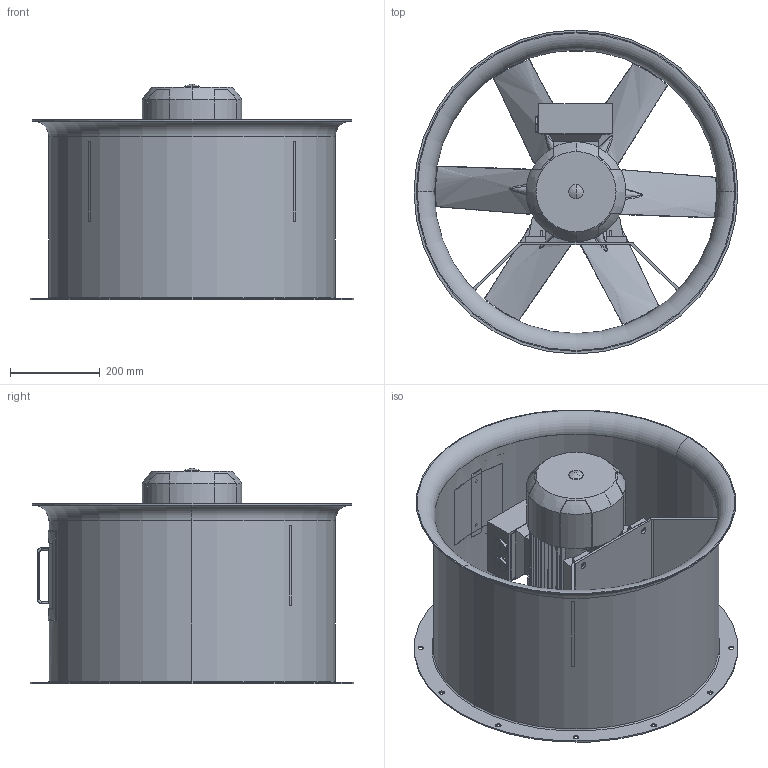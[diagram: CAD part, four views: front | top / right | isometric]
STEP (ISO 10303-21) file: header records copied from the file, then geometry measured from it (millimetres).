
FILE_DESCRIPTION (( 'STEP AP214' ), '1' );
FILE_NAME ('BRV 630_KF_L=400_kort utf..STEP', '2020-09-01T12:48:06', ( '' ), ( '' ), 'SwSTEP 2.0', 'SolidWorks 2016', '' );
FILE_SCHEMA (( 'AUTOMOTIVE_DESIGN' ));
Length unit declared in the file: millimetre
Products named in the file (23): Boss Bolt And Nuts - 624_6-6_30_PAG_4ZL_28_8_62_A-107953; M8_C1-1 Bolt And Nuts - 624_6-6_30_PAG_4ZL_28_8_62_A-107953_2; C1-1-Bolt-Y62006250000_624_6-6_30_PAG_4ZL_28_8_62_A-107953; BRV 630 Insp.luke 150x150; BB-Bolt-Y62006200008_624_6-6_30_PAG_4ZL_28_8_62_A-107953; C1-1-Nuts-Y63206000006_624_6-6_30_PAG_4ZL_28_8_62_A-107953; 24000706200 - 624_6-6_30_PAG_4ZL_28_8_62_A-107953; BRV 630_KF_L=400_mot.112_kort_standard; M8_C1-1 Bolt And Nuts - 624_6-6_30_PAG_4ZL_28_8_62_A-107953_6; 21060708106 - 624_6-6_30_PAG_4ZL_28_8_62_A-107953; BRV 630_KF_L=400_kort utf.; M8_C1-1 Bolt And Nuts - 624_6-6_30_PAG_4ZL_28_8_62_A-107953_5; 624_6-6_30_PAG_4ZL_28_8_62_A-107953; M8_C1-1 Bolt And Nuts - 624_6-6_30_PAG_4ZL_28_8_62_A-107953_3; Boss Bolt And Nuts - 624_6-6_30_PAG_4ZL_28_8_62_A-107953_5; M8_C1-1 Bolt And Nuts - 624_6-6_30_PAG_4ZL_28_8_62_A-107953; M8_C1-1 Bolt And Nuts - 624_6-6_30_PAG_4ZL_28_8_62_A-107953_4; BB-Nut-Y63206000006_624_6-6_30_PAG_4ZL_28_8_62_A-107953; 1TZ9 C 112M-4 4kW B3 IE3; 14100200049 - 624_6-6_30_PAG_4ZL_28_8_62_A-107953; Boss Bolt And Nuts - 624_6-6_30_PAG_4ZL_28_8_62_A-107953_3; Boss Bolt And Nuts - 624_6-6_30_PAG_4ZL_28_8_62_A-107953_2; Boss Bolt And Nuts - 624_6-6_30_PAG_4ZL_28_8_62_A-107953_4
Assembly tree (46 placements, depth 4):
  BRV 630_KF_L=400_kort utf.
    BRV 630_KF_L=400_mot.112_kort_standard
    BRV 630 Insp.luke 150x150
    1TZ9 C 112M-4 4kW B3 IE3
    624_6-6_30_PAG_4ZL_28_8_62_A-107953
      21060708106 - 624_6-6_30_PAG_4ZL_28_8_62_A-107953  x2
      14100200049 - 624_6-6_30_PAG_4ZL_28_8_62_A-107953  x6
      24000706200 - 624_6-6_30_PAG_4ZL_28_8_62_A-107953
      Boss Bolt And Nuts - 624_6-6_30_PAG_4ZL_28_8_62_A-107953
        BB-Bolt-Y62006200008_624_6-6_30_PAG_4ZL_28_8_62_A-107953
        BB-Nut-Y63206000006_624_6-6_30_PAG_4ZL_28_8_62_A-107953
      M8_C1-1 Bolt And Nuts - 624_6-6_30_PAG_4ZL_28_8_62_A-107953
        C1-1-Bolt-Y62006250000_624_6-6_30_PAG_4ZL_28_8_62_A-107953
        C1-1-Nuts-Y63206000006_624_6-6_30_PAG_4ZL_28_8_62_A-107953
      Boss Bolt And Nuts - 624_6-6_30_PAG_4ZL_28_8_62_A-107953_2
        BB-Bolt-Y62006200008_624_6-6_30_PAG_4ZL_28_8_62_A-107953
        BB-Nut-Y63206000006_624_6-6_30_PAG_4ZL_28_8_62_A-107953
      Boss Bolt And Nuts - 624_6-6_30_PAG_4ZL_28_8_62_A-107953_3
        BB-Bolt-Y62006200008_624_6-6_30_PAG_4ZL_28_8_62_A-107953
        BB-Nut-Y63206000006_624_6-6_30_PAG_4ZL_28_8_62_A-107953
      Boss Bolt And Nuts - 624_6-6_30_PAG_4ZL_28_8_62_A-107953_4
        BB-Bolt-Y62006200008_624_6-6_30_PAG_4ZL_28_8_62_A-107953
        BB-Nut-Y63206000006_624_6-6_30_PAG_4ZL_28_8_62_A-107953
      Boss Bolt And Nuts - 624_6-6_30_PAG_4ZL_28_8_62_A-107953_5
        BB-Bolt-Y62006200008_624_6-6_30_PAG_4ZL_28_8_62_A-107953
        BB-Nut-Y63206000006_624_6-6_30_PAG_4ZL_28_8_62_A-107953
      M8_C1-1 Bolt And Nuts - 624_6-6_30_PAG_4ZL_28_8_62_A-107953_2
        C1-1-Bolt-Y62006250000_624_6-6_30_PAG_4ZL_28_8_62_A-107953
        C1-1-Nuts-Y63206000006_624_6-6_30_PAG_4ZL_28_8_62_A-107953
      M8_C1-1 Bolt And Nuts - 624_6-6_30_PAG_4ZL_28_8_62_A-107953_3
        C1-1-Bolt-Y62006250000_624_6-6_30_PAG_4ZL_28_8_62_A-107953
        C1-1-Nuts-Y63206000006_624_6-6_30_PAG_4ZL_28_8_62_A-107953
      M8_C1-1 Bolt And Nuts - 624_6-6_30_PAG_4ZL_28_8_62_A-107953_4
        C1-1-Bolt-Y62006250000_624_6-6_30_PAG_4ZL_28_8_62_A-107953
        C1-1-Nuts-Y63206000006_624_6-6_30_PAG_4ZL_28_8_62_A-107953
      M8_C1-1 Bolt And Nuts - 624_6-6_30_PAG_4ZL_28_8_62_A-107953_5
        C1-1-Bolt-Y62006250000_624_6-6_30_PAG_4ZL_28_8_62_A-107953
        C1-1-Nuts-Y63206000006_624_6-6_30_PAG_4ZL_28_8_62_A-107953
      M8_C1-1 Bolt And Nuts - 624_6-6_30_PAG_4ZL_28_8_62_A-107953_6
        C1-1-Bolt-Y62006250000_624_6-6_30_PAG_4ZL_28_8_62_A-107953
        C1-1-Nuts-Y63206000006_624_6-6_30_PAG_4ZL_28_8_62_A-107953
Bounding box: 720 x 720 x 479 mm (x, y, z)
Volume: 18188832.5 mm3; surface area: 3265234.2 mm2
Topology: 36 solids, 36 shells, 2774 faces, 6931 edges, 4238 vertices
Faces by surface type: bspline 1190, plane 702, cone 464, cylinder 402, torus 16
Entity records: 66697 total; most frequent: CARTESIAN_POINT 32786, ORIENTED_EDGE 7756, DIRECTION 5894, EDGE_CURVE 3878, VERTEX_POINT 2452, AXIS2_PLACEMENT_3D 2226, EDGE_LOOP 1612, ADVANCED_FACE 1486
